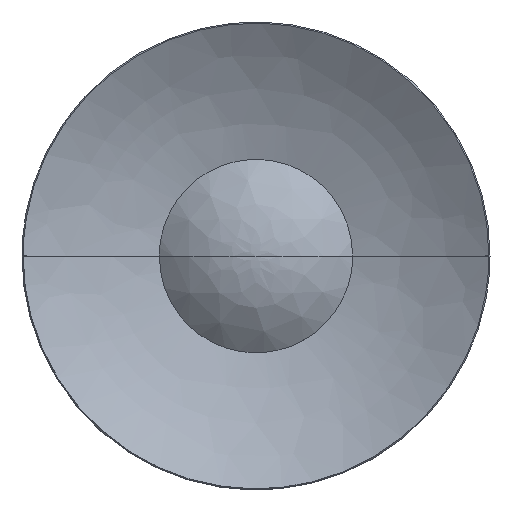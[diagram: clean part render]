
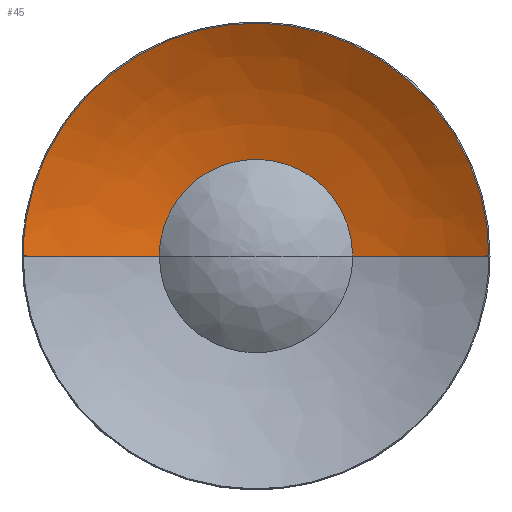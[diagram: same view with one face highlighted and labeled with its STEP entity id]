
A CAD part, top view. The second image highlights one B-rep face of the part: STEP entity #45.
In plain terms, the highlighted free-form (B-spline) face has degree [2, 2] with [5, 3] control points.
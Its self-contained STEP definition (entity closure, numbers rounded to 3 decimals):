
#45=ADVANCED_FACE('',(#87),#545,.T.);
#87=FACE_OUTER_BOUND('',#129,.T.);
#129=EDGE_LOOP('',(#267,#268,#269,#270));
#267=ORIENTED_EDGE('',*,*,#370,.T.);
#268=ORIENTED_EDGE('',*,*,#328,.T.);
#269=ORIENTED_EDGE('',*,*,#371,.F.);
#270=ORIENTED_EDGE('',*,*,#369,.F.);
#328=EDGE_CURVE('',#486,#487,#404,.T.);
#369=EDGE_CURVE('',#510,#511,#431,.T.);
#370=EDGE_CURVE('',#510,#486,#432,.T.);
#371=EDGE_CURVE('',#511,#487,#433,.T.);
#404=(
BOUNDED_CURVE()
B_SPLINE_CURVE(2,(#1211,#1212,#1213),.UNSPECIFIED.,.F.,.F.)
B_SPLINE_CURVE_WITH_KNOTS((3,3),(1369.734,1446.437),
 .UNSPECIFIED.)
CURVE()
GEOMETRIC_REPRESENTATION_ITEM()
RATIONAL_B_SPLINE_CURVE((1.,0.985,1.))
REPRESENTATION_ITEM('')
);
#431=(
BOUNDED_CURVE()
B_SPLINE_CURVE(2,(#1444,#1445,#1446),.UNSPECIFIED.,.F.,.F.)
B_SPLINE_CURVE_WITH_KNOTS((3,3),(1369.734,1446.437),
 .UNSPECIFIED.)
CURVE()
GEOMETRIC_REPRESENTATION_ITEM()
RATIONAL_B_SPLINE_CURVE((1.,0.985,1.))
REPRESENTATION_ITEM('')
);
#432=(
BOUNDED_CURVE()
B_SPLINE_CURVE(2,(#1447,#1448,#1449,#1450,#1451),.UNSPECIFIED.,.F.,.F.)
B_SPLINE_CURVE_WITH_KNOTS((3,2,3),(376.991,565.487,753.982),
 .UNSPECIFIED.)
CURVE()
GEOMETRIC_REPRESENTATION_ITEM()
RATIONAL_B_SPLINE_CURVE((1.,0.707,1.,0.707,1.))
REPRESENTATION_ITEM('')
);
#433=(
BOUNDED_CURVE()
B_SPLINE_CURVE(2,(#1452,#1453,#1454,#1455,#1456),.UNSPECIFIED.,.F.,.F.)
B_SPLINE_CURVE_WITH_KNOTS((3,2,3),(155.781,233.672,311.563),
 .UNSPECIFIED.)
CURVE()
GEOMETRIC_REPRESENTATION_ITEM()
RATIONAL_B_SPLINE_CURVE((1.,0.707,1.,0.707,1.))
REPRESENTATION_ITEM('')
);
#486=VERTEX_POINT('',#1071);
#487=VERTEX_POINT('',#1072);
#510=VERTEX_POINT('',#1095);
#511=VERTEX_POINT('',#1096);
#545=(
BOUNDED_SURFACE()
B_SPLINE_SURFACE(2,2,((#912,#913,#914),(#915,#916,#917),(#918,#919,#920),
(#921,#922,#923),(#924,#925,#926)),.UNSPECIFIED.,.F.,.F.,.F.)
B_SPLINE_SURFACE_WITH_KNOTS((3,2,3),(3,3),(376.991,565.487,
753.982),(1369.734,1496.81),.UNSPECIFIED.)
GEOMETRIC_REPRESENTATION_ITEM()
RATIONAL_B_SPLINE_SURFACE(((1.,0.958,1.),(0.707,
0.677,0.707),(1.,0.958,1.),(0.707,
0.677,0.707),(1.,0.958,1.)))
REPRESENTATION_ITEM('')
SURFACE()
);
#912=CARTESIAN_POINT('',(119.394,0.,318.404));
#913=CARTESIAN_POINT('',(65.07,0.,282.585));
#914=CARTESIAN_POINT('',(0.,0.,282.585));
#915=CARTESIAN_POINT('',(119.394,119.394,318.404));
#916=CARTESIAN_POINT('',(65.07,65.07,282.585));
#917=CARTESIAN_POINT('',(0.,0.,282.585));
#918=CARTESIAN_POINT('',(0.,119.394,318.404));
#919=CARTESIAN_POINT('',(0.,65.07,282.585));
#920=CARTESIAN_POINT('',(0.,0.,282.585));
#921=CARTESIAN_POINT('',(-119.394,119.394,318.404));
#922=CARTESIAN_POINT('',(-65.07,65.07,282.585));
#923=CARTESIAN_POINT('',(0.,0.,282.585));
#924=CARTESIAN_POINT('',(-119.394,0.,318.404));
#925=CARTESIAN_POINT('',(-65.07,0.,282.585));
#926=CARTESIAN_POINT('',(0.,0.,282.585));
#1071=CARTESIAN_POINT('',(-119.394,0.,318.404));
#1072=CARTESIAN_POINT('',(-49.587,0.,288.33));
#1095=CARTESIAN_POINT('',(119.394,0.,318.404));
#1096=CARTESIAN_POINT('',(49.587,0.,288.33));
#1211=CARTESIAN_POINT('',(-119.394,0.,318.404));
#1212=CARTESIAN_POINT('',(-87.167,0.,297.155));
#1213=CARTESIAN_POINT('',(-49.587,0.,288.33));
#1444=CARTESIAN_POINT('',(119.394,0.,318.404));
#1445=CARTESIAN_POINT('',(87.167,0.,297.155));
#1446=CARTESIAN_POINT('',(49.587,0.,288.33));
#1447=CARTESIAN_POINT('',(119.394,0.,318.404));
#1448=CARTESIAN_POINT('',(119.394,119.394,318.404));
#1449=CARTESIAN_POINT('',(0.,119.394,318.404));
#1450=CARTESIAN_POINT('',(-119.394,119.394,318.404));
#1451=CARTESIAN_POINT('',(-119.394,0.,318.404));
#1452=CARTESIAN_POINT('',(49.587,0.,288.33));
#1453=CARTESIAN_POINT('',(49.587,49.587,288.33));
#1454=CARTESIAN_POINT('',(0.,49.587,288.33));
#1455=CARTESIAN_POINT('',(-49.587,49.587,288.33));
#1456=CARTESIAN_POINT('',(-49.587,0.,288.33));
